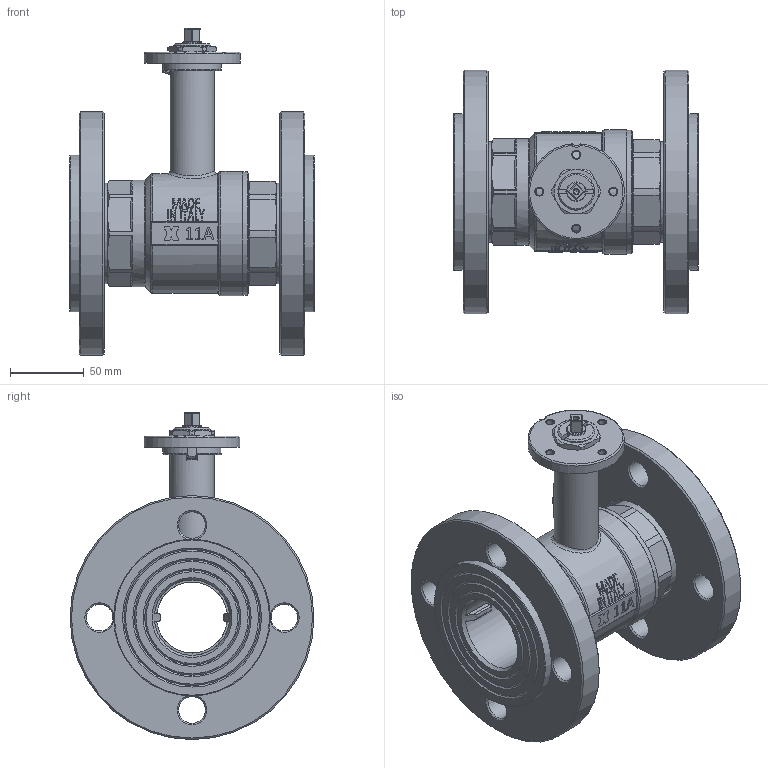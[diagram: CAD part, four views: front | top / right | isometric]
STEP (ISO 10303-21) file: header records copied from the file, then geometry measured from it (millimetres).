
FILE_DESCRIPTION(/* description */ ('Sfera 2"'),/* implementation_level */ '2;1');
FILE_NAME(/* name */ '\\dcidrosfer01\user$\ut4\Desktop\Art.95 PME DN50.stp',/* time_stamp */ '2015-07-21T10:50:07+02:00',/* author */ ('ut4'),/* organization */ (''),/* preprocessor_version */ 'ST-DEVELOPER v15.6',/* originating_system */ 'Autodesk Inventor 2015',/* authorisation */ '');
FILE_SCHEMA (('AUTOMOTIVE_DESIGN { 1 0 10303 214 3 1 1 }'));
Length unit declared in the file: millimetre
Products named in the file (17): sfera 002; O-ring 53.64 x 2.62; Dischetto portamotore SM Ø25 lav.; Dado blocca piastra SM3; Anello antigrip. perno mot. Ø20; Boccola antigrip. perno mot. Ø20; O-ring 15.08 x 2.62; Sede 002; Manicotto deviatore 002 motorizzato; Corpo prolunga mot. 002; Perno mot. prolunga lungo 20 q8; Tubetto prolunga mot.002; Ghiera ferma asta mot. 25 prolunga; O-ring 58.42 x 2.62; Bocchettone DN50; Flangia PN16 DN50; Valvola a sfera mot. 002 art.95 PM SM
Assembly tree (23 placements, depth 2):
  Valvola a sfera mot. 002 art.95 PM SM
    sfera 002
    O-ring 53.64 x 2.62  x2
    Dischetto portamotore SM Ø25 lav.
    Dado blocca piastra SM3
    Anello antigrip. perno mot. Ø20
    Boccola antigrip. perno mot. Ø20  x2
    O-ring 15.08 x 2.62  x2
    Sede 002  x2
    Manicotto deviatore 002 motorizzato
    Corpo prolunga mot. 002
    Perno mot. prolunga lungo 20 q8
    Tubetto prolunga mot.002
    Ghiera ferma asta mot. 25 prolunga
    O-ring 58.42 x 2.62  x2
    Bocchettone DN50  x2
    Flangia PN16 DN50  x2
Bounding box: 165.55 x 165 x 221.25 mm (x, y, z)
Volume: 1025979.8 mm3; surface area: 319552.6 mm2
Topology: 23 solids, 23 shells, 907 faces, 2255 edges, 1411 vertices
Faces by surface type: plane 352, cylinder 229, bspline 114, cone 101, torus 82, sphere 29
Full cylindrical faces by diameter (mm): 3.242 x1, 4.917 x4, 13 x1, 13.2 x3, 14.8 x2, 15 x2, 16 x1, 16.1 x2, 16.3 x2, 18 x8, 19.9 x3, 20 x4, 20.1 x1, 23 x1, 23.3 x1, 23.5 x2, 25 x2, 30 x1, 35 x1, 48 x5, 51 x2, 53.6 x2, 54 x2, 56.66 x1, 56.7 x1, 59 x4, 59.61 x2, 65 x2, 66 x1, 68 x2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
Entity records: 27689 total; most frequent: CARTESIAN_POINT 8430, ORIENTED_EDGE 3764, DIRECTION 3617, EDGE_CURVE 1882, AXIS2_PLACEMENT_3D 1401, VERTEX_POINT 1268, EDGE_LOOP 1054, FACE_OUTER_BOUND 822
